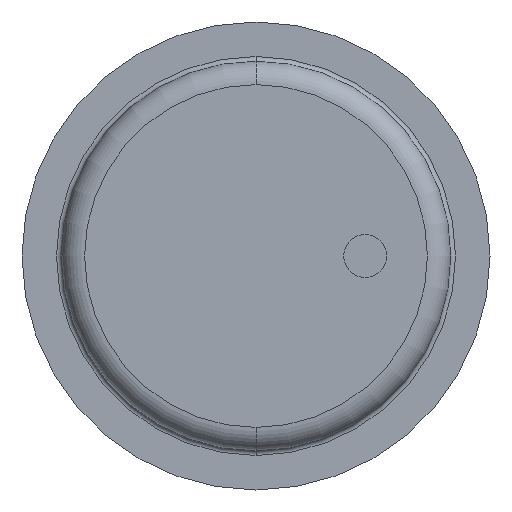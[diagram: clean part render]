
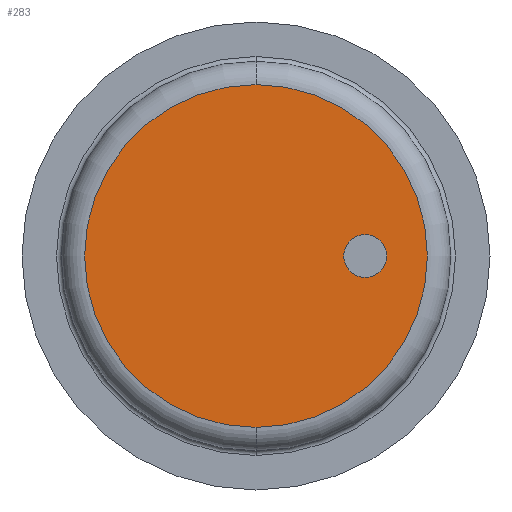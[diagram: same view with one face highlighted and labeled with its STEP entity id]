
A CAD part, front view. The second image highlights one B-rep face of the part: STEP entity #283.
In plain terms, the highlighted planar face has unit normal (0, -1, 0).
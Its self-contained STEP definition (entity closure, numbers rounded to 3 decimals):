
#283 = ADVANCED_FACE( '', ( #652, #653 ), #654, .T. );
#652 = FACE_BOUND( '', #1037, .T. );
#653 = FACE_OUTER_BOUND( '', #1038, .T. );
#654 = PLANE( '', #1039 );
#1037 = EDGE_LOOP( '', ( #2305, #2306 ) );
#1038 = EDGE_LOOP( '', ( #2307, #2308, #2309 ) );
#1039 = AXIS2_PLACEMENT_3D( '', #2310, #2311, #2312 );
#2305 = ORIENTED_EDGE( '', *, *, #2802, .T. );
#2306 = ORIENTED_EDGE( '', *, *, #2804, .T. );
#2307 = ORIENTED_EDGE( '', *, *, #2796, .F. );
#2308 = ORIENTED_EDGE( '', *, *, #2795, .F. );
#2309 = ORIENTED_EDGE( '', *, *, #2805, .F. );
#2310 = CARTESIAN_POINT( '', ( 134.93, -492., 0. ) );
#2311 = DIRECTION( '', ( 0., -1., 0. ) );
#2312 = DIRECTION( '', ( -1., 0., 0. ) );
#2795 = EDGE_CURVE( '', #3460, #3463, #3464, .T. );
#2796 = EDGE_CURVE( '', #3463, #3465, #3466, .T. );
#2802 = EDGE_CURVE( '', #3470, #3474, #3476, .T. );
#2804 = EDGE_CURVE( '', #3474, #3470, #3478, .T. );
#2805 = EDGE_CURVE( '', #3465, #3460, #3479, .T. );
#3460 = VERTEX_POINT( '', #4657 );
#3463 = VERTEX_POINT( '', #4660 );
#3464 = CIRCLE( '', #4661, 109.86 );
#3465 = VERTEX_POINT( '', #4662 );
#3466 = CIRCLE( '', #4663, 109.86 );
#3470 = VERTEX_POINT( '', #4667 );
#3474 = VERTEX_POINT( '', #4672 );
#3476 = CIRCLE( '', #4675, 13.75 );
#3478 = CIRCLE( '', #4677, 13.75 );
#3479 = CIRCLE( '', #4678, 109.86 );
#4657 = CARTESIAN_POINT( '', ( 80., -492., 109.86 ) );
#4660 = CARTESIAN_POINT( '', ( 189.86, -492., 0. ) );
#4661 = AXIS2_PLACEMENT_3D( '', #5575, #5576, #5577 );
#4662 = CARTESIAN_POINT( '', ( 80., -492., -109.86 ) );
#4663 = AXIS2_PLACEMENT_3D( '', #5578, #5579, #5580 );
#4667 = CARTESIAN_POINT( '', ( 163.75, -492., 0. ) );
#4672 = CARTESIAN_POINT( '', ( 136.25, -492., 0. ) );
#4675 = AXIS2_PLACEMENT_3D( '', #5592, #5593, #5594 );
#4677 = AXIS2_PLACEMENT_3D( '', #5598, #5599, #5600 );
#4678 = AXIS2_PLACEMENT_3D( '', #5601, #5602, #5603 );
#5575 = CARTESIAN_POINT( '', ( 80., -492., 0. ) );
#5576 = DIRECTION( '', ( 0., 1., 0. ) );
#5577 = DIRECTION( '', ( 1., 0., 0. ) );
#5578 = CARTESIAN_POINT( '', ( 80., -492., 0. ) );
#5579 = DIRECTION( '', ( 0., 1., 0. ) );
#5580 = DIRECTION( '', ( 1., 0., 0. ) );
#5592 = CARTESIAN_POINT( '', ( 150., -492., 0. ) );
#5593 = DIRECTION( '', ( 0., 1., 0. ) );
#5594 = DIRECTION( '', ( 1., 0., 0. ) );
#5598 = CARTESIAN_POINT( '', ( 150., -492., 0. ) );
#5599 = DIRECTION( '', ( 0., 1., 0. ) );
#5600 = DIRECTION( '', ( 1., 0., 0. ) );
#5601 = CARTESIAN_POINT( '', ( 80., -492., 0. ) );
#5602 = DIRECTION( '', ( 0., 1., 0. ) );
#5603 = DIRECTION( '', ( 1., 0., 0. ) );
